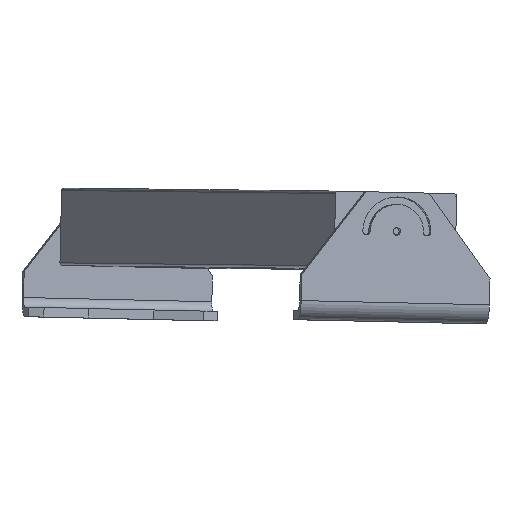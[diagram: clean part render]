
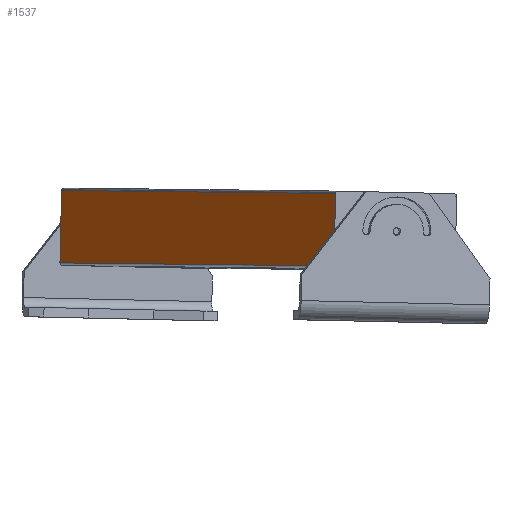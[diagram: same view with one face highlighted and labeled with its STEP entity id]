
A CAD part, left-side view. The second image highlights one B-rep face of the part: STEP entity #1537.
In plain terms, the highlighted planar face has unit normal (-0.162, 0.987, 0.022) as drawn and (0, 1, 0) by its records, which use the part's own axes.
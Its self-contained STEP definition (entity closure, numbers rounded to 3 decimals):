
#26 = EDGE_CURVE ( 'NONE', #1374, #1435, #249, .T. ) ;
#27 = EDGE_CURVE ( 'NONE', #1435, #1348, #251, .T. ) ;
#46 = EDGE_CURVE ( 'NONE', #1380, #1374, #287, .T. ) ;
#64 = EDGE_CURVE ( 'NONE', #1380, #1348, #303, .T. ) ;
#249 = LINE ( 'NONE', #2441, #250 ) ;
#250 = VECTOR ( 'NONE', #2438, 1000. ) ;
#251 = LINE ( 'NONE', #2429, #252 ) ;
#252 = VECTOR ( 'NONE', #2424, 1000. ) ;
#287 = LINE ( 'NONE', #2200, #288 ) ;
#288 = VECTOR ( 'NONE', #2198, 1000. ) ;
#303 = LINE ( 'NONE', #2116, #304 ) ;
#304 = VECTOR ( 'NONE', #2114, 1000. ) ;
#466 = AXIS2_PLACEMENT_3D ( 'NONE', #1214, #1176, #1207 ) ;
#1176 = DIRECTION ( 'NONE',  ( 0., 1., 0. ) ) ;
#1198 = PLANE ( 'NONE',  #466 ) ;
#1207 = DIRECTION ( 'NONE',  ( 0., 0., 1. ) ) ;
#1214 = CARTESIAN_POINT ( 'NONE',  ( -302.228, 21.971, -27.686 ) ) ;
#1348 = VERTEX_POINT ( 'NONE', #2609 ) ;
#1374 = VERTEX_POINT ( 'NONE', #2600 ) ;
#1380 = VERTEX_POINT ( 'NONE', #2597 ) ;
#1424 = EDGE_LOOP ( 'NONE', ( #1903, #1904, #1936, #1931 ) ) ;
#1435 = VERTEX_POINT ( 'NONE', #2558 ) ;
#1537 = ADVANCED_FACE ( 'NONE', ( #2813 ), #1198, .T. ) ;
#1903 = ORIENTED_EDGE ( 'NONE', *, *, #27, .F. ) ;
#1904 = ORIENTED_EDGE ( 'NONE', *, *, #26, .F. ) ;
#1931 = ORIENTED_EDGE ( 'NONE', *, *, #64, .T. ) ;
#1936 = ORIENTED_EDGE ( 'NONE', *, *, #46, .F. ) ;
#2114 = DIRECTION ( 'NONE',  ( -1., 0., 0. ) ) ;
#2116 = CARTESIAN_POINT ( 'NONE',  ( -302.228, 21.971, -26.797 ) ) ;
#2198 = DIRECTION ( 'NONE',  ( 0., 0., 1. ) ) ;
#2200 = CARTESIAN_POINT ( 'NONE',  ( 302.228, 21.971, -27.686 ) ) ;
#2424 = DIRECTION ( 'NONE',  ( 0., 0., -1. ) ) ;
#2429 = CARTESIAN_POINT ( 'NONE',  ( -302.228, 21.971, -27.686 ) ) ;
#2438 = DIRECTION ( 'NONE',  ( -1., 0., 0. ) ) ;
#2441 = CARTESIAN_POINT ( 'NONE',  ( -302.228, 21.971, -0.889 ) ) ;
#2558 = CARTESIAN_POINT ( 'NONE',  ( -302.228, 21.971, -0.889 ) ) ;
#2597 = CARTESIAN_POINT ( 'NONE',  ( 302.228, 21.971, -26.797 ) ) ;
#2600 = CARTESIAN_POINT ( 'NONE',  ( 302.228, 21.971, -0.889 ) ) ;
#2609 = CARTESIAN_POINT ( 'NONE',  ( -302.228, 21.971, -26.797 ) ) ;
#2813 = FACE_OUTER_BOUND ( 'NONE', #1424, .T. ) ;
